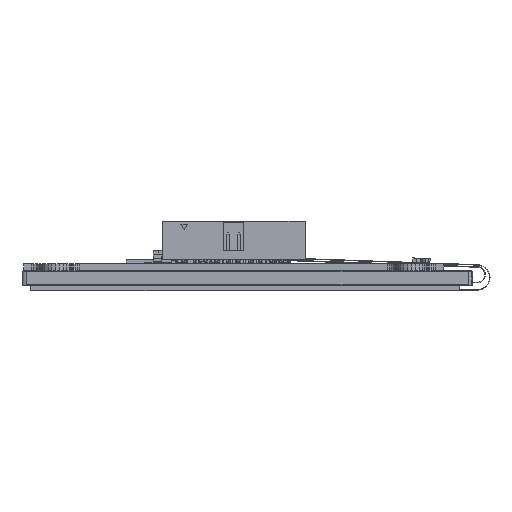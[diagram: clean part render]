
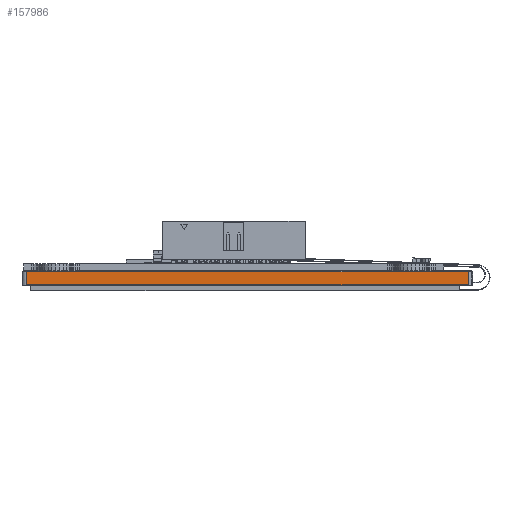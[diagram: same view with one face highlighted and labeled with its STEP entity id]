
A CAD part, left-side view. The second image highlights one B-rep face of the part: STEP entity #157986.
In plain terms, the highlighted planar face has unit normal (-1, 0, 0) as drawn and (1, 0, 0) by its records, which use the part's own axes.
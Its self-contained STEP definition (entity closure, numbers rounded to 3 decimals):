
#1262 = CARTESIAN_POINT ( 'NONE',  ( 85.748, 0.316, 12.157 ) ) ;
#2215 = B_SPLINE_CURVE_WITH_KNOTS ( 'NONE', 3,
 ( #60980, #159099, #94019, #208330 ),
 .UNSPECIFIED., .F., .F.,
 ( 4, 4 ),
 ( 0., 1. ),
 .UNSPECIFIED. ) ;
#6819 = CARTESIAN_POINT ( 'NONE',  ( 85.748, 3.516, -55.843 ) ) ;
#12117 = CARTESIAN_POINT ( 'NONE',  ( 85.748, 3.516, -21.843 ) ) ;
#15583 = B_SPLINE_CURVE_WITH_KNOTS ( 'NONE', 3,
 ( #99453, #1262, #148742, #50677 ),
 .UNSPECIFIED., .F., .F.,
 ( 4, 4 ),
 ( 0., 1. ),
 .UNSPECIFIED. ) ;
#26890 = CARTESIAN_POINT ( 'NONE',  ( 85.748, 0.316, 46.157 ) ) ;
#26965 = CARTESIAN_POINT ( 'NONE',  ( 85.748, 3.516, 46.157 ) ) ;
#33009 = ORIENTED_EDGE ( 'NONE', *, *, #38874, .F. ) ;
#38874 = EDGE_CURVE ( 'NONE', #179542, #202766, #195511, .T. ) ;
#40913 = EDGE_CURVE ( 'NONE', #177014, #202766, #2215, .T. ) ;
#44428 = ORIENTED_EDGE ( 'NONE', *, *, #40913, .T. ) ;
#44570 = B_SPLINE_CURVE_WITH_KNOTS ( 'NONE', 3,
 ( #26890, #174343, #92849, #207187 ),
 .UNSPECIFIED., .F., .F.,
 ( 4, 4 ),
 ( 0., 1. ),
 .UNSPECIFIED. ) ;
#50677 = CARTESIAN_POINT ( 'NONE',  ( 85.748, 0.316, -55.843 ) ) ;
#57655 = CARTESIAN_POINT ( 'NONE',  ( 85.748, 0.316, 46.157 ) ) ;
#60980 = CARTESIAN_POINT ( 'NONE',  ( 85.748, 0.316, -55.843 ) ) ;
#70953 = ORIENTED_EDGE ( 'NONE', *, *, #131772, .T. ) ;
#77882 = CARTESIAN_POINT ( 'NONE',  ( 85.748, 3.516, 12.157 ) ) ;
#92849 = CARTESIAN_POINT ( 'NONE',  ( 85.748, 2.449, 46.157 ) ) ;
#92986 = CARTESIAN_POINT ( 'NONE',  ( 85.748, 0.027, 48.197 ) ) ;
#94019 = CARTESIAN_POINT ( 'NONE',  ( 85.748, 2.449, -55.843 ) ) ;
#94496 = CARTESIAN_POINT ( 'NONE',  ( 85.748, 3.516, 46.157 ) ) ;
#98412 = ORIENTED_EDGE ( 'NONE', *, *, #197726, .F. ) ;
#99453 = CARTESIAN_POINT ( 'NONE',  ( 85.748, 0.316, 46.157 ) ) ;
#109402 = DIRECTION ( 'NONE',  ( 0., 0., -1. ) ) ;
#131772 = EDGE_CURVE ( 'NONE', #179988, #177014, #15583, .T. ) ;
#137570 = EDGE_LOOP ( 'NONE', ( #98412, #70953, #44428, #33009 ) ) ;
#148742 = CARTESIAN_POINT ( 'NONE',  ( 85.748, 0.316, -21.843 ) ) ;
#157986 = ADVANCED_FACE ( 'NONE', ( #198198 ), #173782, .T. ) ;
#159099 = CARTESIAN_POINT ( 'NONE',  ( 85.748, 1.382, -55.843 ) ) ;
#162708 = CARTESIAN_POINT ( 'NONE',  ( 85.748, 0.316, -55.843 ) ) ;
#173782 = PLANE ( 'NONE',  #189425 ) ;
#174343 = CARTESIAN_POINT ( 'NONE',  ( 85.748, 1.382, 46.157 ) ) ;
#177014 = VERTEX_POINT ( 'NONE', #162708 ) ;
#179542 = VERTEX_POINT ( 'NONE', #26965 ) ;
#179988 = VERTEX_POINT ( 'NONE', #57655 ) ;
#189425 = AXIS2_PLACEMENT_3D ( 'NONE', #92986, #207330, #109402 ) ;
#195511 = B_SPLINE_CURVE_WITH_KNOTS ( 'NONE', 3,
 ( #94496, #77882, #12117, #208809 ),
 .UNSPECIFIED., .F., .F.,
 ( 4, 4 ),
 ( 0., 1. ),
 .UNSPECIFIED. ) ;
#197726 = EDGE_CURVE ( 'NONE', #179988, #179542, #44570, .T. ) ;
#198198 = FACE_OUTER_BOUND ( 'NONE', #137570, .T. ) ;
#202766 = VERTEX_POINT ( 'NONE', #6819 ) ;
#207187 = CARTESIAN_POINT ( 'NONE',  ( 85.748, 3.516, 46.157 ) ) ;
#207330 = DIRECTION ( 'NONE',  ( 1., 0., 0. ) ) ;
#208330 = CARTESIAN_POINT ( 'NONE',  ( 85.748, 3.516, -55.843 ) ) ;
#208809 = CARTESIAN_POINT ( 'NONE',  ( 85.748, 3.516, -55.843 ) ) ;
